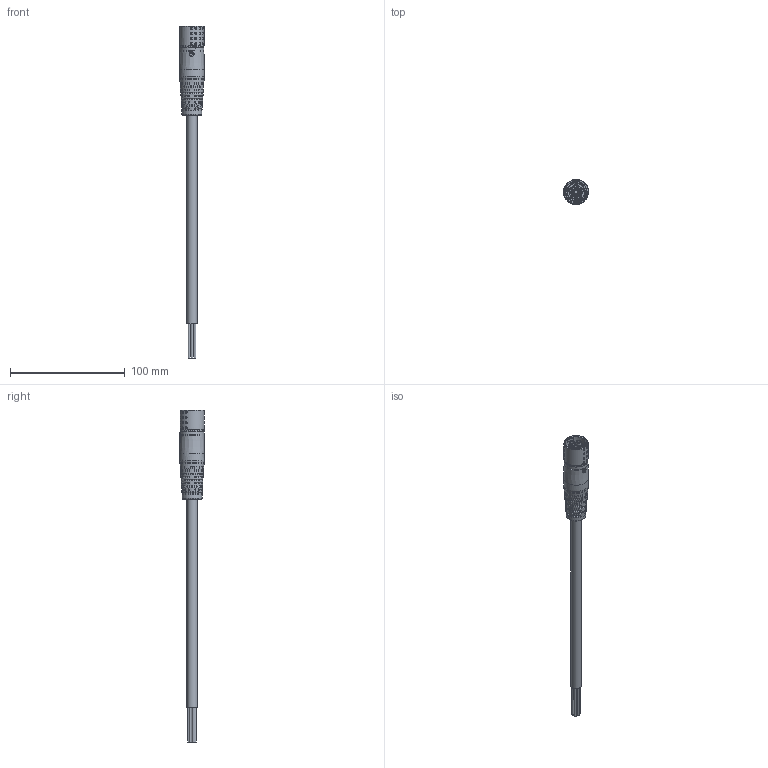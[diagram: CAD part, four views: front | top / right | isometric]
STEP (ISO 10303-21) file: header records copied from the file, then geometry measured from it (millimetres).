
FILE_DESCRIPTION (( 'STEP AP203' ), '1' );
FILE_NAME ('1146375_W-TEC_15K_GLATT_BU_STEP.STEP', '2023-09-04T09:15:52', ( '' ), ( '' ), 'SwSTEP 2.0', 'SolidWorks 2021', '' );
FILE_SCHEMA (( 'CONFIG_CONTROL_DESIGN' ));
Length unit declared in the file: millimetre
Products named in the file (1): 1146375_W-TEC_15K_GLATT_BU_STEP
Bounding box: 21.79 x 21.87 x 289.42 mm (x, y, z)
Surface area: 16361.6 mm2 (no closed solid volume)
Topology: 0 solids, 19 shells, 544 faces, 2098 edges, 1491 vertices
Faces by surface type: bspline 256, plane 148, cylinder 112, cone 25, torus 3
Full cylindrical faces by diameter (mm): 2 x5, 3.3 x6, 4 x1, 4.2 x3, 9.1 x1, 11.1 x1, 17.384 x1, 18.304 x1, 18.4 x1, 21.24 x1, 21.72 x1
Entity records: 40283 total; most frequent: CARTESIAN_POINT 26565, ORIENTED_EDGE 3040, EDGE_CURVE 1978, DIRECTION 1870, VERTEX_POINT 1459, B_SPLINE_CURVE_WITH_KNOTS 980, AXIS2_PLACEMENT_3D 678, EDGE_LOOP 673
